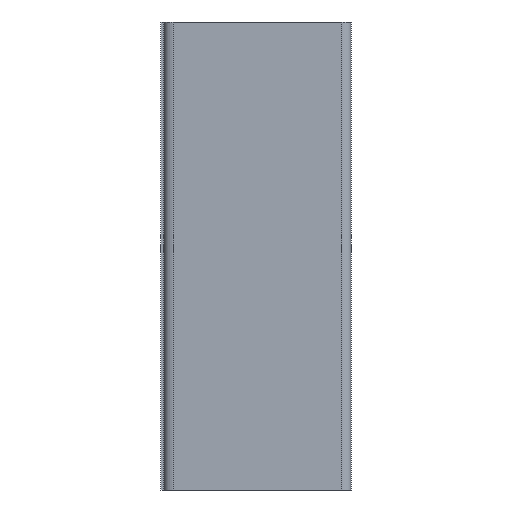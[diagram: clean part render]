
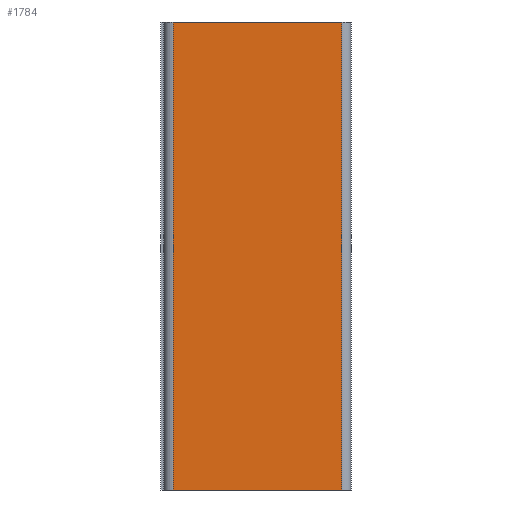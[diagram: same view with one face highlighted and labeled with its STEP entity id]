
A CAD part, left-side view. The second image highlights one B-rep face of the part: STEP entity #1784.
In plain terms, the highlighted planar face has unit normal (-1, 0, 0).
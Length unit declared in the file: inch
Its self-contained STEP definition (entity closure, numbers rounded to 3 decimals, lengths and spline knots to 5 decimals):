
#74=FACE_OUTER_BOUND('',#172,.T.);
#172=EDGE_LOOP('',(#1204,#1205,#1206,#1207));
#274=LINE('',#2541,#506);
#276=LINE('',#2547,#508);
#284=LINE('',#2565,#516);
#285=LINE('',#2566,#517);
#506=VECTOR('',#2045,0.05);
#508=VECTOR('',#2051,0.018);
#516=VECTOR('',#2063,0.018);
#517=VECTOR('',#2064,0.05);
#735=VERTEX_POINT('',#2538);
#736=VERTEX_POINT('',#2540);
#738=VERTEX_POINT('',#2546);
#746=VERTEX_POINT('',#2564);
#915=EDGE_CURVE('',#735,#736,#274,.T.);
#918=EDGE_CURVE('',#736,#738,#276,.T.);
#927=EDGE_CURVE('',#746,#735,#284,.T.);
#928=EDGE_CURVE('',#738,#746,#285,.T.);
#1204=ORIENTED_EDGE('',*,*,#915,.F.);
#1205=ORIENTED_EDGE('',*,*,#927,.F.);
#1206=ORIENTED_EDGE('',*,*,#928,.F.);
#1207=ORIENTED_EDGE('',*,*,#918,.F.);
#1701=PLANE('',#1896);
#1784=ADVANCED_FACE('',(#74),#1701,.T.);
#1896=AXIS2_PLACEMENT_3D('',#2563,#2061,#2062);
#2045=DIRECTION('',(0.,0.,-1.));
#2051=DIRECTION('',(0.,1.,0.));
#2061=DIRECTION('center_axis',(-1.,0.,0.));
#2062=DIRECTION('ref_axis',(0.,-1.,0.));
#2063=DIRECTION('',(0.,-1.,0.));
#2064=DIRECTION('',(0.,0.,1.));
#2538=CARTESIAN_POINT('',(-0.0775,0.001,0.025));
#2540=CARTESIAN_POINT('',(-0.0775,0.001,-0.025));
#2541=CARTESIAN_POINT('',(-0.0775,0.001,0.));
#2546=CARTESIAN_POINT('',(-0.0775,0.019,-0.025));
#2547=CARTESIAN_POINT('',(-0.0775,0.02,-0.025));
#2563=CARTESIAN_POINT('Origin',(-0.0775,0.02,0.));
#2564=CARTESIAN_POINT('',(-0.0775,0.019,0.025));
#2565=CARTESIAN_POINT('',(-0.0775,0.02,0.025));
#2566=CARTESIAN_POINT('',(-0.0775,0.019,0.));
